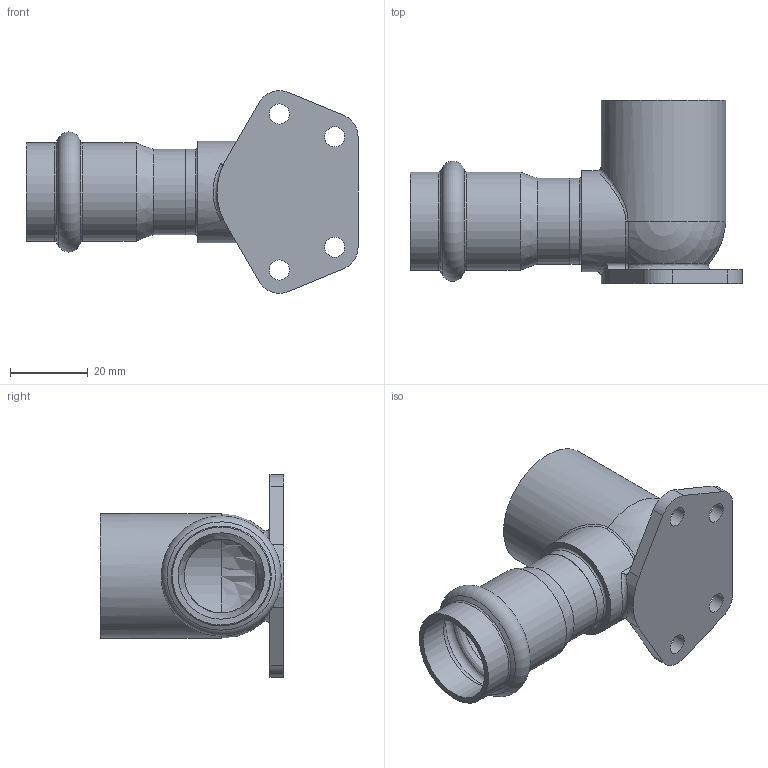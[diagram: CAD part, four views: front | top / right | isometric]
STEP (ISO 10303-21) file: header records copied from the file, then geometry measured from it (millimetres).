
FILE_DESCRIPTION((''),'2;1');
FILE_NAME('G:\Nirosan-Schmiedefeld\Technics\CAD\Bauteile VA\022\69472g2234(3).stp','2012-12-21T14:19:39',('herberg'),(''),'Autodesk Inventor 2009','Autodesk Inventor 2009','');
FILE_SCHEMA(('AUTOMOTIVE_DESIGN { 1 0 10303 214 1 1 1 1 }'));
Length unit declared in the file: millimetre
Products named in the file (3): 69472g2234(3); G_69472g2234(3); HM_6924322(1)
Assembly tree (2 placements, depth 2):
  69472g2234(3)
    G_69472g2234(3)
    HM_6924322(1)
Bounding box: 85.14 x 47 x 51.97 mm (x, y, z)
Volume: 23747.5 mm3; surface area: 18977.2 mm2
Topology: 2 solids, 2 shells, 60 faces, 153 edges, 93 vertices
Faces by surface type: bspline 19, cylinder 17, plane 14, cone 6, sphere 2, torus 2
Full cylindrical faces by diameter (mm): 19 x1, 22 x2, 22.15 x2, 25.15 x2, 26 x1, 27.6 x1, 32 x1
Entity records: 2657 total; most frequent: CARTESIAN_POINT 1339, DIRECTION 264, ORIENTED_EDGE 218, AXIS2_PLACEMENT_3D 120, EDGE_CURVE 109, EDGE_LOOP 103, VERTEX_POINT 84, CIRCLE 74
